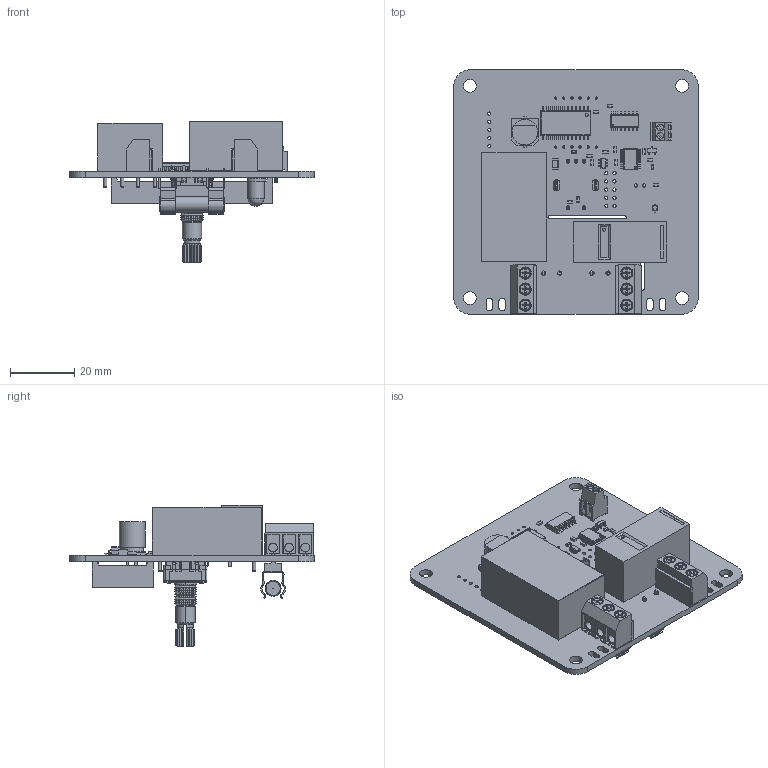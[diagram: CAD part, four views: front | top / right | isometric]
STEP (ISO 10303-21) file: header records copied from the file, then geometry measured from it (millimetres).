
FILE_DESCRIPTION(('Open CASCADE Model'),'2;1');
FILE_NAME('Open CASCADE Shape Model','2020-02-22T18:39:11',('Author'),( 'Open CASCADE'),'Open CASCADE STEP processor 6.8','Open CASCADE 6.8' ,'Unknown');
FILE_SCHEMA(('AUTOMOTIVE_DESIGN { 1 0 10303 214 1 1 1 1 }'));
Length unit declared in the file: millimetre
Products named in the file (126): PCB; Board; R9; 472315808; Mid_Body; Terminal; Open_CASCADE_STEP_translator_6.8_12.2.1; Mark; R8; C11; 472313248; Open_CASCADE_STEP_translator_6.8_14.1.1; Open_CASCADE_STEP_translator_6.8_14.1.2; Open_CASCADE_STEP_translator_6.8_14.2.1; C10; Q1; 472315680; Body; Open_CASCADE_STEP_translator_6.8_1.1.1; Leader; RELAY1; G5RL_1A_E_HR_RGB4078660; R7; 472316192; F1; User_Library-FUSIVEL; User_Library-FUSECLIP; PSU; hlk-pm01; Fusion; U3; 472316320; Open_CASCADE_STEP_translator_6.8_70.1; Open_CASCADE_STEP_translator_6.8_70.2.1; U2; 472316448; Open_CASCADE_STEP_translator_6.8_67.1; Open_CASCADE_STEP_translator_6.8_67.2.1; U1; 472316576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
Assembly tree (201 placements, depth 5):
  PCB
    Board
    R9
      472315808
        Mid_Body
        Terminal  x2
          Open_CASCADE_STEP_translator_6.8_12.2.1
        Mark
    R8
      472315808
        Mid_Body
        Terminal  x2
          Open_CASCADE_STEP_translator_6.8_12.2.1
        Mark
    C11
      472313248
        Terminal
          Open_CASCADE_STEP_translator_6.8_14.1.1
          Open_CASCADE_STEP_translator_6.8_14.1.2
        Mid_Body
          Open_CASCADE_STEP_translator_6.8_14.2.1
    C10
      472313248
        Terminal
          Open_CASCADE_STEP_translator_6.8_14.1.1
          Open_CASCADE_STEP_translator_6.8_14.1.2
        Mid_Body
          Open_CASCADE_STEP_translator_6.8_14.2.1
    Q1
      472315680
        Body
          Open_CASCADE_STEP_translator_6.8_1.1.1
        Leader  x3
    RELAY1
      G5RL_1A_E_HR_RGB4078660
    R7
      472316192
        Mid_Body
        Terminal  x2
          Open_CASCADE_STEP_translator_6.8_12.2.1
        Mark
    F1
      User_Library-FUSIVEL
      User_Library-FUSECLIP  x2
    PSU
      hlk-pm01
        Fusion
    U3
      472316320
        Open_CASCADE_STEP_translator_6.8_70.1
        Body
          Open_CASCADE_STEP_translator_6.8_70.2.1
        Leader  x24
    U2
      472316448
        Open_CASCADE_STEP_translator_6.8_67.1
        Body
          Open_CASCADE_STEP_translator_6.8_67.2.1
        Leader  x14
    U1
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Bounding box: 76 x 76 x 44.16 mm (x, y, z)
Volume: 38393.3 mm3; surface area: 29883.9 mm2
Topology: 195 solids, 201 shells, 4021 faces, 9038 edges, 5348 vertices
Faces by surface type: plane 2725, cylinder 1025, sphere 131, cone 68, bspline 48, torus 20, revolution 4
Full cylindrical faces by diameter (mm): 0.4 x1, 0.5 x13, 0.537 x1, 0.7 x12, 0.8 x2, 0.95 x1, 1 x25, 1.05 x2, 1.2 x15, 1.3 x4, 1.4 x6, 1.8 x4, 2.75 x6, 3.5 x6, 3.8 x6, 4 x4, 5 x1, 7 x1, 8 x1
Entity records: 165519 total; most frequent: CARTESIAN_POINT 61434, DIRECTION 17794, LINE 10112, VECTOR 10112, ORIENTED_EDGE 9799, PCURVE 9799, DEFINITIONAL_REPRESENTATION 9799, EDGE_CURVE 4903
